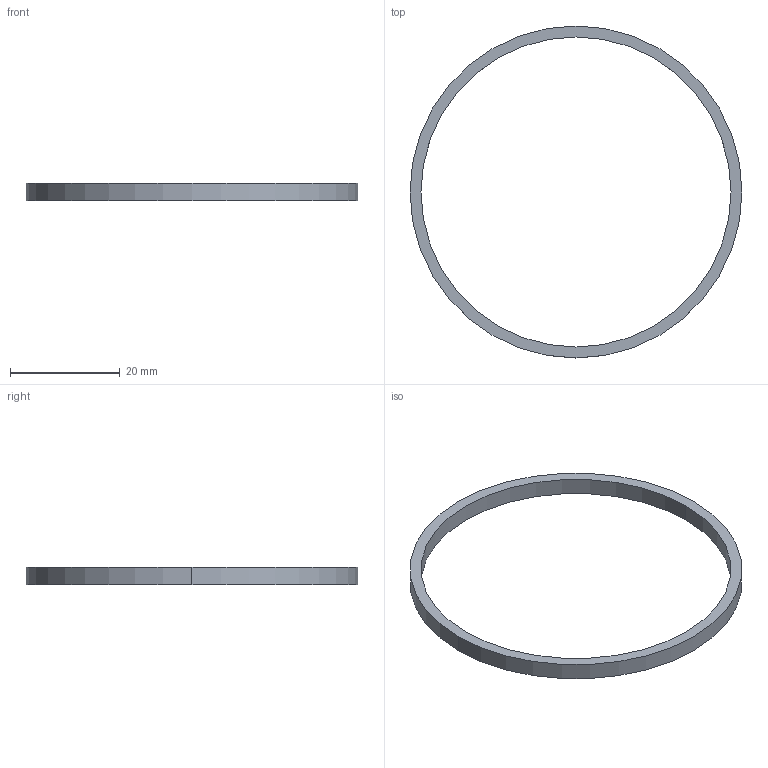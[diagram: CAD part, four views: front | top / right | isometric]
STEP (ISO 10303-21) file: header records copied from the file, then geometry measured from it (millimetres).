
FILE_DESCRIPTION (( 'STEP AP214' ), '1' );
FILE_NAME ('228-2500-468.STEP', '2021-02-18T20:03:41', ( '' ), ( '' ), 'SwSTEP 2.0', 'SolidWorks 2019', '' );
FILE_SCHEMA (( 'AUTOMOTIVE_DESIGN' ));
Length unit declared in the file: millimetre
Products named in the file (1): 228-2500-468
Bounding box: 60.6 x 60.6 x 3.15 mm (x, y, z)
Volume: 1159.8 mm3; surface area: 1896.2 mm2
Topology: 1 solids, 1 shells, 6 faces, 12 edges, 8 vertices
Faces by surface type: cylinder 4, plane 2
Entity records: 202 total; most frequent: DIRECTION 34, CARTESIAN_POINT 27, ORIENTED_EDGE 24, AXIS2_PLACEMENT_3D 15, EDGE_CURVE 12, VERTEX_POINT 8, EDGE_LOOP 8, CIRCLE 8
